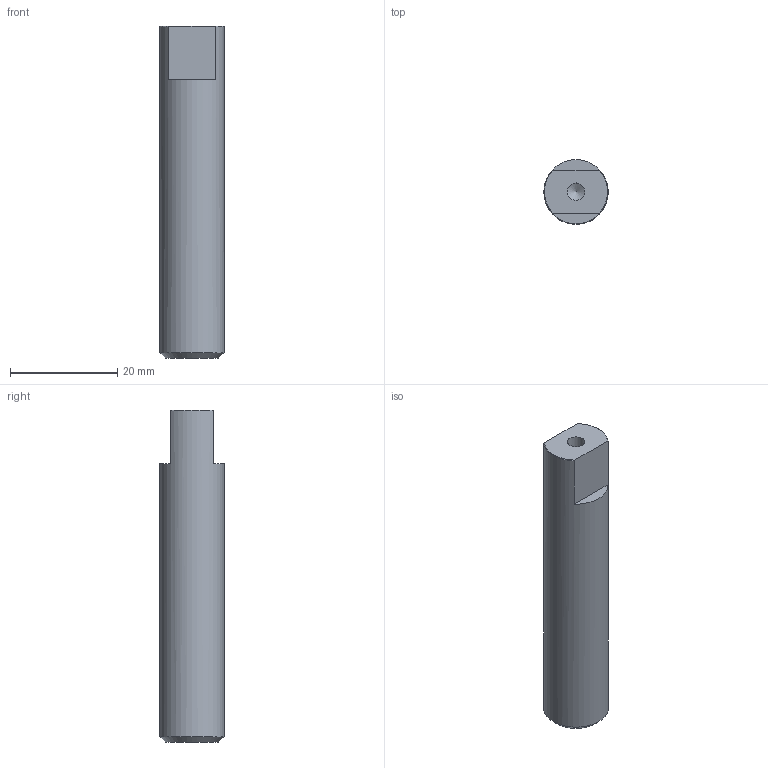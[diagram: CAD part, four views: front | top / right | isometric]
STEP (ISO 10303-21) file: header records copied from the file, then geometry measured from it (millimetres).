
FILE_DESCRIPTION(/* description */ (''),/* implementation_level */ '2;1');
FILE_NAME(/* name */ 'C:\Users\strothej\Documents\ActualDocuments\MicroscopeParts\TwoPhotonSystem\ScanningMechanics\v26\Drawings\Filter_Holder_Guide.stp',/* time_stamp */ '2017-05-20T13:14:52-07:00',/* author */ ('strothej'),/* organization */ (''),/* preprocessor_version */ 'ST-DEVELOPER v16.1',/* originating_system */ 'Autodesk Inventor 2016',/* authorisation */ '');
FILE_SCHEMA (('AUTOMOTIVE_DESIGN { 1 0 10303 214 3 1 1 }'));
Length unit declared in the file: millimetre
Products named in the file (1): Filter_Holder_Guide
Bounding box: 12 x 12 x 62 mm (x, y, z)
Volume: 6644.6 mm3; surface area: 2639.7 mm2
Topology: 1 solids, 1 shells, 12 faces, 28 edges, 18 vertices
Faces by surface type: plane 6, cone 4, cylinder 2
Full cylindrical faces by diameter (mm): 3.242 x1, 12 x1
Entity records: 328 total; most frequent: CARTESIAN_POINT 59, DIRECTION 54, ORIENTED_EDGE 44, AXIS2_PLACEMENT_3D 23, EDGE_CURVE 22, EDGE_LOOP 16, VERTEX_POINT 16, FACE_OUTER_BOUND 12
